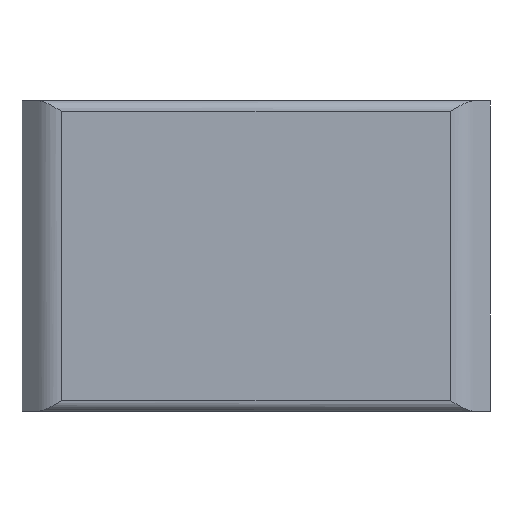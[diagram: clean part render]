
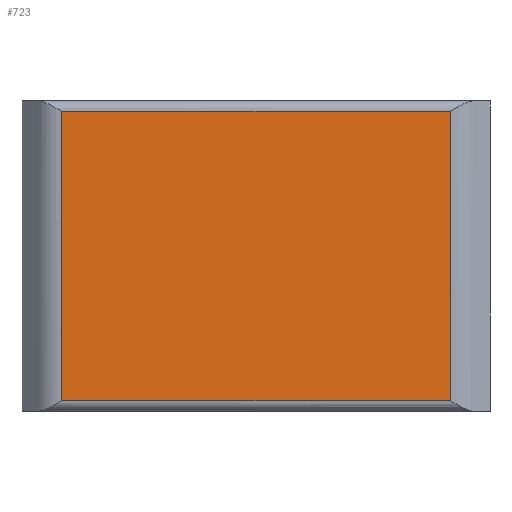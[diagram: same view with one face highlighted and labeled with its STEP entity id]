
A CAD part, front view. The second image highlights one B-rep face of the part: STEP entity #723.
In plain terms, the highlighted planar face has unit normal (0, -1, 0).
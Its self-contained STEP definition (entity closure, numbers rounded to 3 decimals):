
#88 = VECTOR ( 'NONE', #3526, 1000. ) ;
#170 = DIRECTION ( 'NONE',  ( 0., 1., 0. ) ) ;
#466 = DIRECTION ( 'NONE',  ( -1., 0., 0. ) ) ;
#587 = VERTEX_POINT ( 'NONE', #4531 ) ;
#723 = ADVANCED_FACE ( 'NONE', ( #4201 ), #2383, .F. ) ;
#873 = AXIS2_PLACEMENT_3D ( 'NONE', #4187, #170, #3100 ) ;
#942 = DIRECTION ( 'NONE',  ( 0., 0., 1. ) ) ;
#1116 = VECTOR ( 'NONE', #2742, 1000. ) ;
#1149 = LINE ( 'NONE', #4266, #1330 ) ;
#1229 = CARTESIAN_POINT ( 'NONE',  ( 55.072, 0., 41. ) ) ;
#1330 = VECTOR ( 'NONE', #942, 1000. ) ;
#1422 = VERTEX_POINT ( 'NONE', #3500 ) ;
#1459 = LINE ( 'NONE', #1652, #1116 ) ;
#1467 = ORIENTED_EDGE ( 'NONE', *, *, #4739, .T. ) ;
#1652 = CARTESIAN_POINT ( 'NONE',  ( 55.072, 0., -41. ) ) ;
#1700 = VECTOR ( 'NONE', #466, 1000. ) ;
#1826 = EDGE_CURVE ( 'NONE', #2895, #3015, #1149, .T. ) ;
#2301 = EDGE_CURVE ( 'NONE', #587, #1422, #4396, .T. ) ;
#2329 = EDGE_LOOP ( 'NONE', ( #3586, #3021, #3499, #1467 ) ) ;
#2383 = PLANE ( 'NONE',  #873 ) ;
#2546 = LINE ( 'NONE', #3728, #1700 ) ;
#2742 = DIRECTION ( 'NONE',  ( 1., 0., 0. ) ) ;
#2776 = CARTESIAN_POINT ( 'NONE',  ( -55.072, 0., 44. ) ) ;
#2895 = VERTEX_POINT ( 'NONE', #4160 ) ;
#3015 = VERTEX_POINT ( 'NONE', #1229 ) ;
#3021 = ORIENTED_EDGE ( 'NONE', *, *, #3223, .T. ) ;
#3100 = DIRECTION ( 'NONE',  ( 0., 0., 1. ) ) ;
#3223 = EDGE_CURVE ( 'NONE', #1422, #2895, #1459, .T. ) ;
#3499 = ORIENTED_EDGE ( 'NONE', *, *, #1826, .T. ) ;
#3500 = CARTESIAN_POINT ( 'NONE',  ( -55.072, 0., -41. ) ) ;
#3526 = DIRECTION ( 'NONE',  ( 0., 0., -1. ) ) ;
#3586 = ORIENTED_EDGE ( 'NONE', *, *, #2301, .T. ) ;
#3728 = CARTESIAN_POINT ( 'NONE',  ( -58.8, 0., 41. ) ) ;
#4160 = CARTESIAN_POINT ( 'NONE',  ( 55.072, 0., -41. ) ) ;
#4187 = CARTESIAN_POINT ( 'NONE',  ( -58.8, 0., 44. ) ) ;
#4201 = FACE_OUTER_BOUND ( 'NONE', #2329, .T. ) ;
#4266 = CARTESIAN_POINT ( 'NONE',  ( 55.072, 0., 44. ) ) ;
#4396 = LINE ( 'NONE', #2776, #88 ) ;
#4531 = CARTESIAN_POINT ( 'NONE',  ( -55.072, 0., 41. ) ) ;
#4739 = EDGE_CURVE ( 'NONE', #3015, #587, #2546, .T. ) ;
